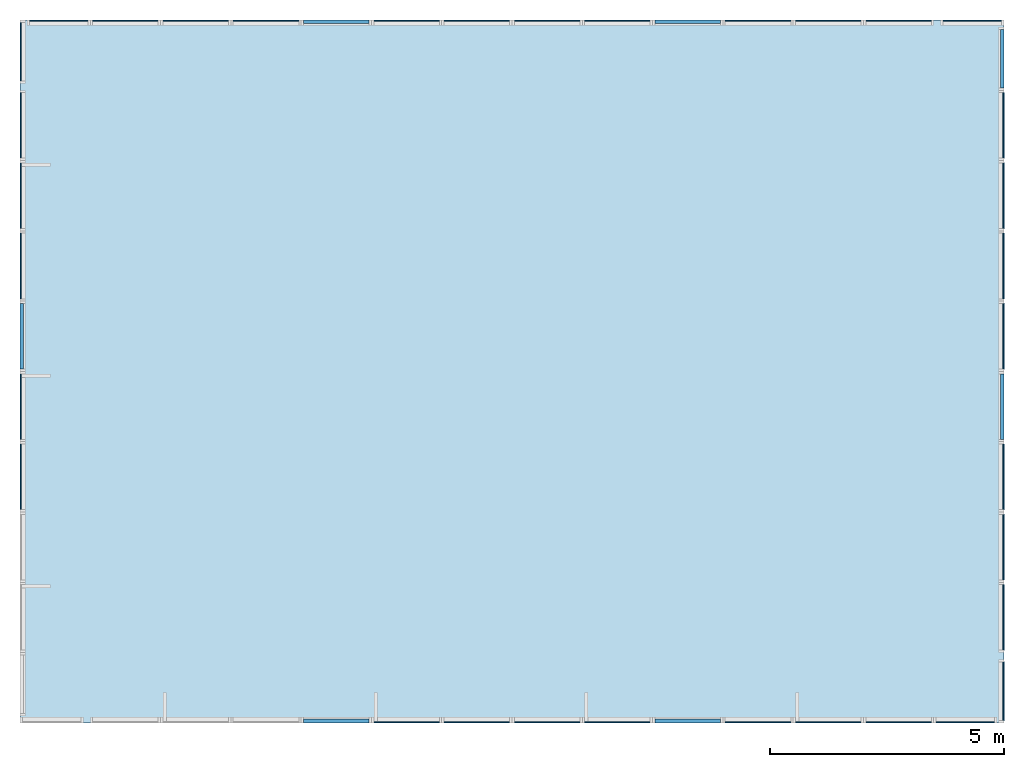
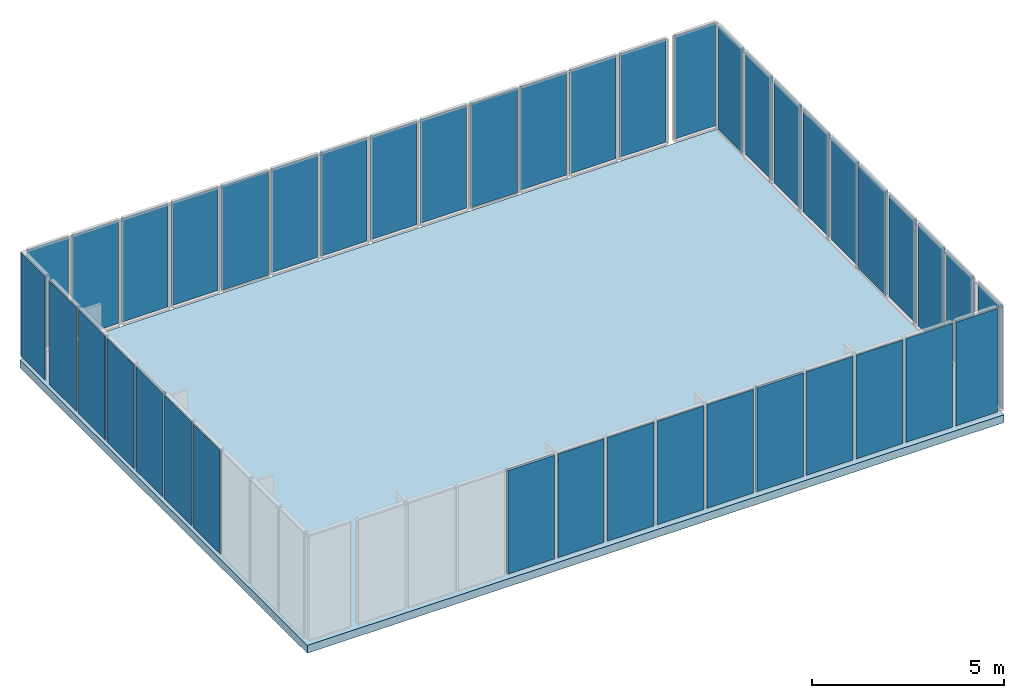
# One storey, part 3 of 3: 41 plates, 1 slab.
"""IFC4 building model written with IfcOpenShell, lengths in metres."""

import ifcopenshell
import ifcopenshell.guid

model = None  # the IFC model being written
_history = None  # IfcOwnerHistory: only IFC2X3 demands one
_inside = {}  # id of a spatial element -> (the spatial element, [elements in it])
_under = {}  # id of a project, library or spatial element -> (it, [spatial elements below it])
_declared = {}  # id of a project -> (the project, [libraries it declares])
_typed = {}  # id of a type object -> (the type object, [elements of that type])
_made_of = {}  # id of a material, layer set ... -> (it, [elements and type objects made of it])


def new_model(schema):
    """Start an empty IFC model of exactly this schema.

    Asked for "IFC4X3", IfcOpenShell would pick the latest addendum, in which some entities
    have other attributes; the version numbers below select the first issue.
    IFC2X3 requires an IfcOwnerHistory on every rooted entity: one is made here for all.
    """
    global model, _history
    if schema == "IFC4X3":
        model = ifcopenshell.file(schema_version=(4, 3, 0, 0))
    else:
        model = ifcopenshell.file(schema=schema)
    _inside.clear()
    _under.clear()
    _declared.clear()
    _typed.clear()
    _made_of.clear()
    _history = None
    if model.schema == "IFC2X3":
        org = make("IfcOrganization", Name="unknown")
        user = make(
            "IfcPersonAndOrganization",
            ThePerson=make("IfcPerson", FamilyName="unknown"),
            TheOrganization=org,
        )
        app = make(
            "IfcApplication",
            ApplicationDeveloper=org,
            Version="unknown",
            ApplicationFullName="unknown",
            ApplicationIdentifier="unknown",
        )
        _history = make(
            "IfcOwnerHistory",
            OwningUser=user,
            OwningApplication=app,
            ChangeAction="ADDED",
            CreationDate=0,
        )
    return model


def make(cls, **values):
    """One entity of the class cls with the attributes given. An attribute that is None is left unset."""
    return model.create_entity(
        cls, **{name: value for name, value in values.items() if value is not None}
    )


def rooted(cls, **values):
    """An entity with a GlobalId (a new one), such as an element, a storey or a relation."""
    return make(cls, GlobalId=ifcopenshell.guid.new(), OwnerHistory=_history, **values)


def si_unit(unit_type, name, prefix=None):
    """IfcSIUnit, for example si_unit("LENGTHUNIT", "METRE", prefix="MILLI")."""
    return make("IfcSIUnit", UnitType=unit_type, Prefix=prefix, Name=name)


def assignment(units):
    """IfcUnitAssignment: the units of a project."""
    return None if units is None else make("IfcUnitAssignment", Units=units)


def point(xyz):
    """IfcCartesianPoint."""
    return None if xyz is None else make("IfcCartesianPoint", Coordinates=xyz)


def direction(xyz):
    """IfcDirection."""
    return None if xyz is None else make("IfcDirection", DirectionRatios=xyz)


def frame(location, z_axis=None, x_axis=None):
    """IfcAxis2Placement3D, a coordinate frame: its origin and axes. An axis left out is left unset."""
    return make(
        "IfcAxis2Placement3D",
        Location=point(location),
        Axis=direction(z_axis),
        RefDirection=direction(x_axis),
    )


def origin_with_axes():
    """The frame at (0, 0, 0) with the z axis (0, 0, 1) and the x axis (1, 0, 0) written out."""
    return frame((0.0, 0.0, 0.0), z_axis=(0.0, 0.0, 1.0), x_axis=(1.0, 0.0, 0.0))


def place(relative_to, where):
    """IfcLocalPlacement: puts the frame where relative to a parent placement (None: the world)."""
    return make(
        "IfcLocalPlacement", PlacementRelTo=relative_to, RelativePlacement=where
    )


def context(
    kind, dimensions, precision=None, world=None, true_north=None, identifier=None
):
    """IfcGeometricRepresentationContext, for example the 3D "Model" context."""
    return make(
        "IfcGeometricRepresentationContext",
        ContextIdentifier=identifier,
        ContextType=kind,
        CoordinateSpaceDimension=dimensions,
        Precision=precision,
        WorldCoordinateSystem=world,
        TrueNorth=true_north,
    )


def subcontext(parent, identifier, kind, view, scale=None):
    """IfcGeometricRepresentationSubContext, for example "Body" below "Model"."""
    return make(
        "IfcGeometricRepresentationSubContext",
        ContextIdentifier=identifier,
        ContextType=kind,
        ParentContext=parent,
        TargetScale=scale,
        TargetView=view,
    )


def project(units=None, contexts=None):
    """IfcProject with its units and contexts."""
    return rooted(
        "IfcProject",
        Name="project",
        RepresentationContexts=contexts,
        UnitsInContext=assignment(units),
    )


def spatial(cls, under=None, at=None, **own):
    """A site, building, storey or space (cls), placed at a placement, below another one or the project."""
    s = rooted(cls, ObjectPlacement=at, **own)
    if under is not None:
        _under.setdefault(under.id(), (under, []))[1].append(s)
    return s


def point_list(points):
    """IfcCartesianPointList2D or 3D."""
    cls = (
        "IfcCartesianPointList2D" if len(points[0]) == 2 else "IfcCartesianPointList3D"
    )
    return make(cls, CoordList=points)


def indexed_curve(points, segments=None, self_intersect=None):
    """IfcIndexedPolyCurve: lines and arcs through numbered points (the first is 1)."""
    return make(
        "IfcIndexedPolyCurve",
        Points=point_list(points),
        Segments=segments,
        SelfIntersect=self_intersect,
    )


def outline(outer, holes=None, kind="AREA"):
    """IfcArbitraryClosedProfileDef: a profile drawn as a closed curve; with holes, ...WithVoids."""
    if holes is None:
        return make("IfcArbitraryClosedProfileDef", ProfileType=kind, OuterCurve=outer)
    return make(
        "IfcArbitraryProfileDefWithVoids",
        ProfileType=kind,
        OuterCurve=outer,
        InnerCurves=holes,
    )


def extrude(swept, where, along, depth):
    """IfcExtrudedAreaSolid: the profile swept, set in the frame where, extruded along a direction by depth."""
    return make(
        "IfcExtrudedAreaSolid",
        SweptArea=swept,
        Position=where,
        ExtrudedDirection=direction(along),
        Depth=depth,
    )


def shape(context_of_items, identifier, shape_type, items):
    """IfcShapeRepresentation: the items that make up one representation, for example the "Body"."""
    return make(
        "IfcShapeRepresentation",
        ContextOfItems=context_of_items,
        RepresentationIdentifier=identifier,
        RepresentationType=shape_type,
        Items=items,
    )


def material(Name=None, Category=None):
    """IfcMaterial."""
    return make("IfcMaterial", Name=Name, Category=Category)


def made_of(thing, what):
    """Note that an element or type object is made of a material, layer set ...; save() writes the relation."""
    if what is not None:
        _made_of.setdefault(what.id(), (what, []))[1].append(thing)
    return thing


def element(
    cls,
    number,
    at=None,
    inside=None,
    cuts=None,
    type_object=None,
    material=None,
    context=None,
    identifier="Body",
    shape_type=None,
    held_by="IfcProductDefinitionShape",
    body=None,
    shapes=None,
    **own,
):
    """One element of the class cls, such as IfcWall. Its Tag is "e" and its number.

    at: its placement. inside: the storey or other place that contains it. cuts: it is an
    opening in that element (IfcRelVoidsElement). A single representation is given by context,
    identifier, shape_type and body (its items); several are given by shapes. held_by: the class
    of the entity that holds the representations. save() writes the other relations.
    """
    e = rooted(cls, Tag="e%d" % number, ObjectPlacement=at, **own)
    if body is not None:
        shapes = [shape(context, identifier, shape_type, body)]
    if shapes is not None:
        e.Representation = make(held_by, Representations=shapes)
    if inside is not None:
        _inside.setdefault(inside.id(), (inside, []))[1].append(e)
    if cuts is not None:
        rooted(
            "IfcRelVoidsElement", RelatingBuildingElement=cuts, RelatedOpeningElement=e
        )
    if type_object is not None:
        _typed.setdefault(type_object.id(), (type_object, []))[1].append(e)
    return made_of(e, material)


def aggregate(whole, parts):
    """IfcRelAggregates: a whole, such as a stair, and the parts it consists of."""
    return rooted("IfcRelAggregates", RelatingObject=whole, RelatedObjects=parts)


def save(model, path):
    """Write the relations noted so far, then the file.

    IfcRelAggregates (storeys below a building ...), IfcRelContainedInSpatialStructure (elements
    in a storey), IfcRelDefinesByType, IfcRelAssociatesMaterial and IfcRelDeclares: one each for
    every whole, place, type object, material and project.
    """
    for whole, parts in _under.values():
        aggregate(whole, parts)
    for where, things in _inside.values():
        rooted(
            "IfcRelContainedInSpatialStructure",
            RelatedElements=things,
            RelatingStructure=where,
        )
    for kind, things in _typed.values():
        rooted("IfcRelDefinesByType", RelatedObjects=things, RelatingType=kind)
    for what, things in _made_of.values():
        rooted("IfcRelAssociatesMaterial", RelatedObjects=things, RelatingMaterial=what)
    for by, libraries in _declared.values():
        rooted("IfcRelDeclares", RelatingContext=by, RelatedDefinitions=libraries)
    model.write(path)


model = new_model("IFC4")

# Units and contexts
model_context = context("Model", 3, precision=1e-05, world=origin_with_axes())
body_context = subcontext(model_context, "Body", "Model", "MODEL_VIEW")
ifc_project = project(units=[si_unit("AREAUNIT", "SQUARE_METRE"), si_unit("VOLUMEUNIT", "CUBIC_METRE"), si_unit("LENGTHUNIT", "METRE")], contexts=[model_context])

# Site, building, storey
site = spatial("IfcSite", under=ifc_project, Name="Synthetic Site")
building = spatial("IfcBuilding", under=site, Name="Complex Tower")
storey_placement = place(None, frame((0.0, 0.0, 12.6), z_axis=(0.0, 0.0, 1.0), x_axis=(1.0, 0.0, 0.0)))
storey = spatial("IfcBuildingStorey", under=building, at=storey_placement, Name="L04", Elevation=12.6)

# Plates
ifc_material_1 = material(Name="Aluminium")
plate_1_placement = place(storey_placement, frame((9.05, 1.5, 0.15000000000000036), z_axis=(0.0, 0.0, 1.0), x_axis=(1.0, 0.0, 0.0)))
element("IfcPlate", 1, at=plate_1_placement, inside=storey, material=ifc_material_1, Name="CT-L04-S-005", PredefinedType="SHEET", context=body_context, shape_type="SweptSolid", body=[
    extrude(outline(indexed_curve([(0.0, 0.0), (0.0, 0.08), (1.4, 0.08), (1.4, 0.0), (0.0, 0.0)], self_intersect=False)), origin_with_axes(), (0.0, 0.0, 1.0), 3.3000000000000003),
])
ifc_material_2 = material(Name="Glass")
for number, where, z_axis, x_axis, name in (
    (2, (10.55, 1.5, 0.15000000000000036), (0.0, 0.0, 1.0), (1.0, 0.0, 0.0), "CT-L04-S-006"),
    (3, (12.05, 1.5, 0.15000000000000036), (0.0, 0.0, 1.0), (1.0, 0.0, 0.0), "CT-L04-S-007"),
    (4, (13.55, 1.5, 0.15000000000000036), (0.0, 0.0, 1.0), (1.0, 0.0, 0.0), "CT-L04-S-008"),
    (5, (15.05, 1.5, 0.15000000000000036), (0.0, 0.0, 1.0), (1.0, 0.0, 0.0), "CT-L04-S-009"),
):
    element("IfcPlate", number, at=place(storey_placement, frame(where, z_axis=z_axis, x_axis=x_axis)), inside=storey, material=ifc_material_2, Name=name, PredefinedType="CURTAIN_PANEL", context=body_context, shape_type="SweptSolid", body=[
        extrude(outline(indexed_curve([(0.0, 0.0), (0.0, 0.028), (1.4, 0.028), (1.4, 0.0), (0.0, 0.0)], self_intersect=False)), origin_with_axes(), (0.0, 0.0, 1.0), 3.3000000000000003),
    ])
plate_2_placement = place(storey_placement, frame((16.55, 1.5, 0.15000000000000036), z_axis=(0.0, 0.0, 1.0), x_axis=(1.0, 0.0, 0.0)))
element("IfcPlate", 6, at=plate_2_placement, inside=storey, material=ifc_material_1, Name="CT-L04-S-010", PredefinedType="SHEET", context=body_context, shape_type="SweptSolid", body=[
    extrude(outline(indexed_curve([(0.0, 0.0), (0.0, 0.08), (1.4, 0.08), (1.4, 0.0), (0.0, 0.0)], self_intersect=False)), origin_with_axes(), (0.0, 0.0, 1.0), 3.3000000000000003),
])
for number, where, z_axis, x_axis, name in (
    (7, (18.05, 1.5, 0.15000000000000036), (0.0, 0.0, 1.0), (1.0, 0.0, 0.0), "CT-L04-S-011"),
    (8, (19.55, 1.5, 0.15000000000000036), (0.0, 0.0, 1.0), (1.0, 0.0, 0.0), "CT-L04-S-012"),
    (9, (21.05, 1.5, 0.15000000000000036), (0.0, 0.0, 1.0), (1.0, 0.0, 0.0), "CT-L04-S-013"),
):
    element("IfcPlate", number, at=place(storey_placement, frame(where, z_axis=z_axis, x_axis=x_axis)), inside=storey, material=ifc_material_2, Name=name, PredefinedType="CURTAIN_PANEL", context=body_context, shape_type="SweptSolid", body=[
        extrude(outline(indexed_curve([(0.0, 0.0), (0.0, 0.028), (1.4, 0.028), (1.4, 0.0), (0.0, 0.0)], self_intersect=False)), origin_with_axes(), (0.0, 0.0, 1.0), 3.3000000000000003),
    ])
for number, where, z_axis, x_axis, name in (
    (10, (22.55, 1.5, 0.15000000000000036), (0.0, 0.0, 1.0), (1.0, 0.0, 0.0), "CT-L04-S-014"),
    (11, (24.0, 1.55, 0.15000000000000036), (0.0, 0.0, 1.0), (6.123233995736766e-17, 1.0, 0.0), "CT-L04-E-001"),
):
    element("IfcPlate", number, at=place(storey_placement, frame(where, z_axis=z_axis, x_axis=x_axis)), inside=storey, material=ifc_material_2, Name=name, PredefinedType="CURTAIN_PANEL", context=body_context, shape_type="SweptSolid", body=[
        extrude(outline(indexed_curve([(0.0, 0.0), (0.0, 0.028), (1.25, 0.028), (1.25, 0.0), (0.0, 0.0)], self_intersect=False)), origin_with_axes(), (0.0, 0.0, 1.0), 3.3000000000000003),
    ])
for number, where, z_axis, x_axis, name in (
    (12, (24.0, 3.05, 0.15000000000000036), (0.0, 0.0, 1.0), (6.123233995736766e-17, 1.0, 0.0), "CT-L04-E-002"),
    (13, (24.0, 4.55, 0.15000000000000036), (0.0, 0.0, 1.0), (6.123233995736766e-17, 1.0, 0.0), "CT-L04-E-003"),
    (14, (24.0, 6.05, 0.15000000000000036), (0.0, 0.0, 1.0), (6.123233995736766e-17, 1.0, 0.0), "CT-L04-E-004"),
):
    element("IfcPlate", number, at=place(storey_placement, frame(where, z_axis=z_axis, x_axis=x_axis)), inside=storey, material=ifc_material_2, Name=name, PredefinedType="CURTAIN_PANEL", context=body_context, shape_type="SweptSolid", body=[
        extrude(outline(indexed_curve([(0.0, 0.0), (0.0, 0.028), (1.4, 0.028), (1.4, 0.0), (0.0, 0.0)], self_intersect=False)), origin_with_axes(), (0.0, 0.0, 1.0), 3.3000000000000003),
    ])
plate_3_placement = place(storey_placement, frame((24.0, 7.55, 0.15000000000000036), z_axis=(0.0, 0.0, 1.0), x_axis=(6.123233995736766e-17, 1.0, 0.0)))
element("IfcPlate", 15, at=plate_3_placement, inside=storey, material=ifc_material_1, Name="CT-L04-E-005", PredefinedType="SHEET", context=body_context, shape_type="SweptSolid", body=[
    extrude(outline(indexed_curve([(0.0, 0.0), (0.0, 0.08), (1.4, 0.08), (1.4, 0.0), (0.0, 0.0)], self_intersect=False)), origin_with_axes(), (0.0, 0.0, 1.0), 3.3000000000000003),
])
for number, where, z_axis, x_axis, name in (
    (16, (24.0, 9.05, 0.15000000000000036), (0.0, 0.0, 1.0), (6.123233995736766e-17, 1.0, 0.0), "CT-L04-E-006"),
    (17, (24.0, 10.55, 0.15000000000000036), (0.0, 0.0, 1.0), (6.123233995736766e-17, 1.0, 0.0), "CT-L04-E-007"),
    (18, (24.0, 12.05, 0.15000000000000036), (0.0, 0.0, 1.0), (6.123233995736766e-17, 1.0, 0.0), "CT-L04-E-008"),
    (19, (24.0, 13.55, 0.15000000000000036), (0.0, 0.0, 1.0), (6.123233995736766e-17, 1.0, 0.0), "CT-L04-E-009"),
):
    element("IfcPlate", number, at=place(storey_placement, frame(where, z_axis=z_axis, x_axis=x_axis)), inside=storey, material=ifc_material_2, Name=name, PredefinedType="CURTAIN_PANEL", context=body_context, shape_type="SweptSolid", body=[
        extrude(outline(indexed_curve([(0.0, 0.0), (0.0, 0.028), (1.4, 0.028), (1.4, 0.0), (0.0, 0.0)], self_intersect=False)), origin_with_axes(), (0.0, 0.0, 1.0), 3.3000000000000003),
    ])
plate_4_placement = place(storey_placement, frame((24.0, 15.05, 0.15000000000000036), z_axis=(0.0, 0.0, 1.0), x_axis=(6.123233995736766e-17, 1.0, 0.0)))
element("IfcPlate", 20, at=plate_4_placement, inside=storey, material=ifc_material_1, Name="CT-L04-E-010", PredefinedType="SHEET", context=body_context, shape_type="SweptSolid", body=[
    extrude(outline(indexed_curve([(0.0, 0.0), (0.0, 0.08), (1.25, 0.08), (1.25, 0.0), (0.0, 0.0)], self_intersect=False)), origin_with_axes(), (0.0, 0.0, 1.0), 3.3000000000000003),
])
plate_5_placement = place(storey_placement, frame((23.95, 16.5, 0.15000000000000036), z_axis=(0.0, 0.0, 1.0), x_axis=(-1.0, 1.2246467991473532e-16, 0.0)))
element("IfcPlate", 21, at=plate_5_placement, inside=storey, material=ifc_material_2, Name="CT-L04-N-001", PredefinedType="CURTAIN_PANEL", context=body_context, shape_type="SweptSolid", body=[
    extrude(outline(indexed_curve([(0.0, 0.0), (0.0, 0.028), (1.25, 0.028), (1.25, 0.0), (0.0, 0.0)], self_intersect=False)), origin_with_axes(), (0.0, 0.0, 1.0), 3.3000000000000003),
])
for number, where, z_axis, x_axis, name in (
    (22, (22.45, 16.5, 0.15000000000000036), (0.0, 0.0, 1.0), (-1.0, 1.2246467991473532e-16, 0.0), "CT-L04-N-002"),
    (23, (20.95, 16.5, 0.15000000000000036), (0.0, 0.0, 1.0), (-1.0, 1.2246467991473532e-16, 0.0), "CT-L04-N-003"),
    (24, (19.45, 16.5, 0.15000000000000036), (0.0, 0.0, 1.0), (-1.0, 1.2246467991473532e-16, 0.0), "CT-L04-N-004"),
):
    element("IfcPlate", number, at=place(storey_placement, frame(where, z_axis=z_axis, x_axis=x_axis)), inside=storey, material=ifc_material_2, Name=name, PredefinedType="CURTAIN_PANEL", context=body_context, shape_type="SweptSolid", body=[
        extrude(outline(indexed_curve([(0.0, 0.0), (0.0, 0.028), (1.4, 0.028), (1.4, 0.0), (0.0, 0.0)], self_intersect=False)), origin_with_axes(), (0.0, 0.0, 1.0), 3.3000000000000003),
    ])
plate_6_placement = place(storey_placement, frame((17.95, 16.5, 0.15000000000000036), z_axis=(0.0, 0.0, 1.0), x_axis=(-1.0, 1.2246467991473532e-16, 0.0)))
element("IfcPlate", 25, at=plate_6_placement, inside=storey, material=ifc_material_1, Name="CT-L04-N-005", PredefinedType="SHEET", context=body_context, shape_type="SweptSolid", body=[
    extrude(outline(indexed_curve([(0.0, 0.0), (0.0, 0.08), (1.4, 0.08), (1.4, 0.0), (0.0, 0.0)], self_intersect=False)), origin_with_axes(), (0.0, 0.0, 1.0), 3.3000000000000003),
])
for number, where, z_axis, x_axis, name in (
    (26, (16.45, 16.5, 0.15000000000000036), (0.0, 0.0, 1.0), (-1.0, 1.2246467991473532e-16, 0.0), "CT-L04-N-006"),
    (27, (14.95, 16.5, 0.15000000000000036), (0.0, 0.0, 1.0), (-1.0, 1.2246467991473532e-16, 0.0), "CT-L04-N-007"),
    (28, (13.45, 16.5, 0.15000000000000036), (0.0, 0.0, 1.0), (-1.0, 1.2246467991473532e-16, 0.0), "CT-L04-N-008"),
    (29, (11.95, 16.5, 0.15000000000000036), (0.0, 0.0, 1.0), (-1.0, 1.2246467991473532e-16, 0.0), "CT-L04-N-009"),
):
    element("IfcPlate", number, at=place(storey_placement, frame(where, z_axis=z_axis, x_axis=x_axis)), inside=storey, material=ifc_material_2, Name=name, PredefinedType="CURTAIN_PANEL", context=body_context, shape_type="SweptSolid", body=[
        extrude(outline(indexed_curve([(0.0, 0.0), (0.0, 0.028), (1.4, 0.028), (1.4, 0.0), (0.0, 0.0)], self_intersect=False)), origin_with_axes(), (0.0, 0.0, 1.0), 3.3000000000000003),
    ])
plate_7_placement = place(storey_placement, frame((10.45, 16.5, 0.15000000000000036), z_axis=(0.0, 0.0, 1.0), x_axis=(-1.0, 1.2246467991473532e-16, 0.0)))
element("IfcPlate", 30, at=plate_7_placement, inside=storey, material=ifc_material_1, Name="CT-L04-N-010", PredefinedType="SHEET", context=body_context, shape_type="SweptSolid", body=[
    extrude(outline(indexed_curve([(0.0, 0.0), (0.0, 0.08), (1.4, 0.08), (1.4, 0.0), (0.0, 0.0)], self_intersect=False)), origin_with_axes(), (0.0, 0.0, 1.0), 3.3000000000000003),
])
for number, where, z_axis, x_axis, name in (
    (31, (8.95, 16.500000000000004, 0.15000000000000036), (0.0, 0.0, 1.0), (-1.0, 1.2246467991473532e-16, 0.0), "CT-L04-N-011"),
    (32, (7.449999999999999, 16.500000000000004, 0.15000000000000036), (0.0, 0.0, 1.0), (-1.0, 1.2246467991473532e-16, 0.0), "CT-L04-N-012"),
    (33, (5.949999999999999, 16.500000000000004, 0.15000000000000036), (0.0, 0.0, 1.0), (-1.0, 1.2246467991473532e-16, 0.0), "CT-L04-N-013"),
):
    element("IfcPlate", number, at=place(storey_placement, frame(where, z_axis=z_axis, x_axis=x_axis)), inside=storey, material=ifc_material_2, Name=name, PredefinedType="CURTAIN_PANEL", context=body_context, shape_type="SweptSolid", body=[
        extrude(outline(indexed_curve([(0.0, 0.0), (0.0, 0.028), (1.4, 0.028), (1.4, 0.0), (0.0, 0.0)], self_intersect=False)), origin_with_axes(), (0.0, 0.0, 1.0), 3.3000000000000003),
    ])
for number, where, z_axis, x_axis, name in (
    (34, (4.449999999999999, 16.500000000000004, 0.15000000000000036), (0.0, 0.0, 1.0), (-1.0, 1.2246467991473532e-16, 0.0), "CT-L04-N-014"),
    (35, (3.0, 16.45, 0.15000000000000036), (0.0, 0.0, 1.0), (-1.8369701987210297e-16, -1.0, 0.0), "CT-L04-W-001"),
):
    element("IfcPlate", number, at=place(storey_placement, frame(where, z_axis=z_axis, x_axis=x_axis)), inside=storey, material=ifc_material_2, Name=name, PredefinedType="CURTAIN_PANEL", context=body_context, shape_type="SweptSolid", body=[
        extrude(outline(indexed_curve([(0.0, 0.0), (0.0, 0.028), (1.25, 0.028), (1.25, 0.0), (0.0, 0.0)], self_intersect=False)), origin_with_axes(), (0.0, 0.0, 1.0), 3.3000000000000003),
    ])
for number, where, z_axis, x_axis, name in (
    (36, (2.9999999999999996, 14.95, 0.15000000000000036), (0.0, 0.0, 1.0), (-1.8369701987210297e-16, -1.0, 0.0), "CT-L04-W-002"),
    (37, (2.9999999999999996, 13.45, 0.15000000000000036), (0.0, 0.0, 1.0), (-1.8369701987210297e-16, -1.0, 0.0), "CT-L04-W-003"),
    (38, (2.999999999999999, 11.95, 0.15000000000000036), (0.0, 0.0, 1.0), (-1.8369701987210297e-16, -1.0, 0.0), "CT-L04-W-004"),
):
    element("IfcPlate", number, at=place(storey_placement, frame(where, z_axis=z_axis, x_axis=x_axis)), inside=storey, material=ifc_material_2, Name=name, PredefinedType="CURTAIN_PANEL", context=body_context, shape_type="SweptSolid", body=[
        extrude(outline(indexed_curve([(0.0, 0.0), (0.0, 0.028), (1.4, 0.028), (1.4, 0.0), (0.0, 0.0)], self_intersect=False)), origin_with_axes(), (0.0, 0.0, 1.0), 3.3000000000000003),
    ])
plate_8_placement = place(storey_placement, frame((2.9999999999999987, 10.45, 0.15000000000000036), z_axis=(0.0, 0.0, 1.0), x_axis=(-1.8369701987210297e-16, -1.0, 0.0)))
element("IfcPlate", 39, at=plate_8_placement, inside=storey, material=ifc_material_1, Name="CT-L04-W-005", PredefinedType="SHEET", context=body_context, shape_type="SweptSolid", body=[
    extrude(outline(indexed_curve([(0.0, 0.0), (0.0, 0.08), (1.4, 0.08), (1.4, 0.0), (0.0, 0.0)], self_intersect=False)), origin_with_axes(), (0.0, 0.0, 1.0), 3.3000000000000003),
])
for number, where, z_axis, x_axis, name in (
    (40, (2.9999999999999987, 8.95, 0.15000000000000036), (0.0, 0.0, 1.0), (-1.8369701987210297e-16, -1.0, 0.0), "CT-L04-W-006"),
    (41, (2.9999999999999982, 7.449999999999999, 0.15000000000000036), (0.0, 0.0, 1.0), (-1.8369701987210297e-16, -1.0, 0.0), "CT-L04-W-007"),
):
    element("IfcPlate", number, at=place(storey_placement, frame(where, z_axis=z_axis, x_axis=x_axis)), inside=storey, material=ifc_material_2, Name=name, PredefinedType="CURTAIN_PANEL", context=body_context, shape_type="SweptSolid", body=[
        extrude(outline(indexed_curve([(0.0, 0.0), (0.0, 0.028), (1.4, 0.028), (1.4, 0.0), (0.0, 0.0)], self_intersect=False)), origin_with_axes(), (0.0, 0.0, 1.0), 3.3000000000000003),
    ])

# Slab
ifc_material_3 = material(Name="Concrete")
slab_placement = place(storey_placement, frame((3.0, 1.5, -0.25), z_axis=(0.0, 0.0, 1.0), x_axis=(1.0, 0.0, 0.0)))
element("IfcSlab", 42, at=slab_placement, inside=storey, material=ifc_material_3, Name="CT-SLAB-04", PredefinedType="FLOOR", context=body_context, shape_type="SweptSolid", body=[
    extrude(outline(indexed_curve([(0.0, 0.0), (0.0, 15.0), (21.0, 15.0), (21.0, 0.0), (0.0, 0.0)], self_intersect=False)), origin_with_axes(), (0.0, 0.0, 1.0), 0.25),
])

save(model, "model.ifc")
